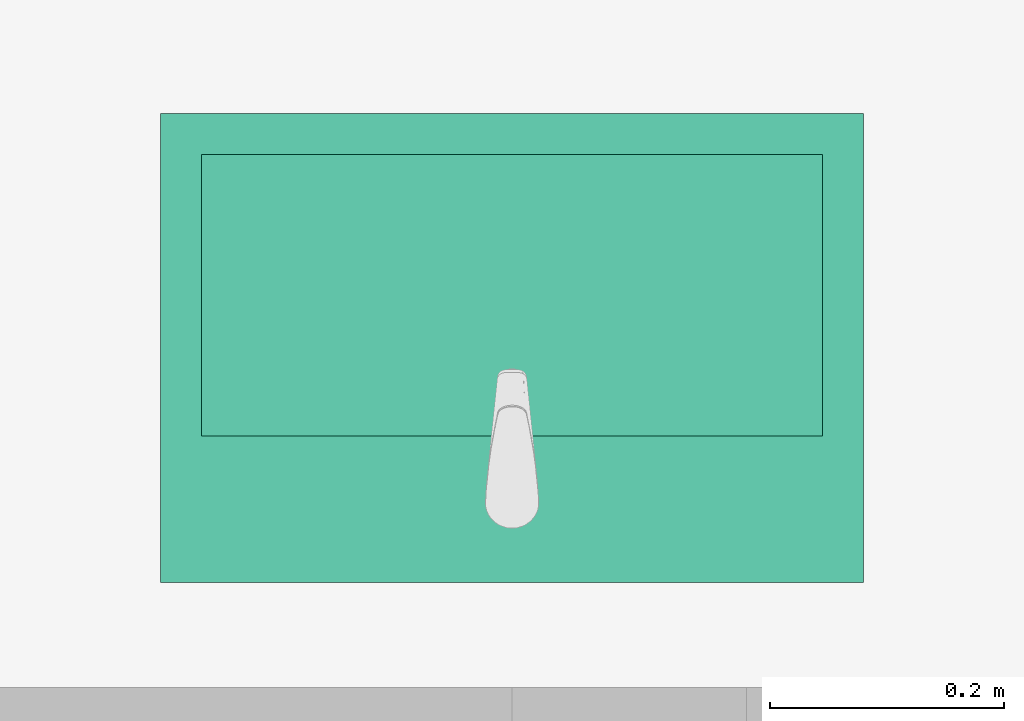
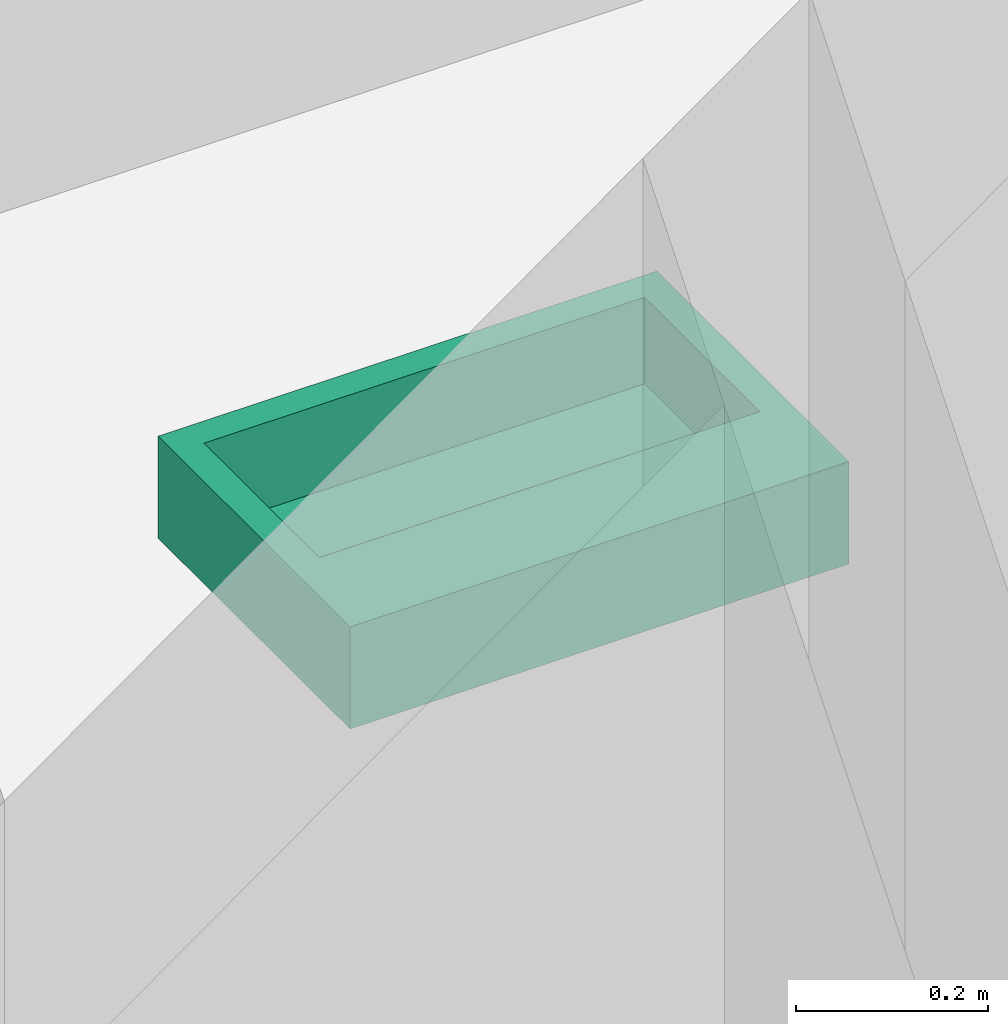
# One storey, part 17 of 42: 1 flow terminal.
"""IFC2X3 building model written with IfcOpenShell, lengths in millimetres."""

from ifc_helpers import new_model, entity, si_unit, converted_unit, direction, frame, origin, place, context, subcontext, project, spatial, faceted_brep, source, transform, mapped, material, type_object, type_shapes, element, save


model = new_model("IFC2X3")

# Units and contexts
model_context = context("Model", 3, precision=0.01, world=origin(), true_north=direction((6.123233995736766e-17, 1.0)))
plan_context = context("Plan", 3, precision=0.01, world=origin(), true_north=direction((6.123233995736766e-17, 1.0)))
body_context = subcontext(model_context, "Body", "Model", "MODEL_VIEW")
ifc_project = project(units=[si_unit("LENGTHUNIT", "METRE", prefix="MILLI"), converted_unit("PLANEANGLEUNIT", "DEGREE", entity("IfcPlaneAngleMeasure", 0.017453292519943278), si_unit("PLANEANGLEUNIT", "RADIAN"), dimensions=[0, 0, 0, 0, 0, 0, 0]), si_unit("AREAUNIT", "SQUARE_METRE")], contexts=[model_context, plan_context])

# Site, building, storey, space
site_placement = place(None, origin())
site = spatial("IfcSite", under=ifc_project, at=site_placement, Name="Default", CompositionType="ELEMENT")
building_placement = place(site_placement, origin())
building = spatial("IfcBuilding", under=site, at=building_placement, CompositionType="ELEMENT")
storey_placement = place(building_placement, frame((0.0, 0.0, 9465.000076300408)))
storey = spatial("IfcBuildingStorey", under=building, at=storey_placement, Name="4K", CompositionType="ELEMENT", Elevation=9465.000076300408)
space_placement = place(storey_placement, origin())
space = spatial("IfcSpace", under=storey, at=space_placement, Name="4-9.6", CompositionType="ELEMENT", InteriorOrExteriorSpace="INTERNAL")

# Flow terminal
ifc_material = material(Name="<Unnamed>")
distribution_element_type = type_object("IfcDistributionElementType", Name="HR_Plumbing-fixtures_Sink_Generic_Bathroom_v1:600 x 400 mm", material=ifc_material)
shared_shape = source(origin(), body_context, "Body", "Brep", [
    faceted_brep([(300.0, 0.0, 0.0), (-300.0, 0.0, 0.0), (-300.0, -400.0, 0.0), (300.0, -400.0, 0.0), (-265.0, -125.0, 0.0), (265.0, -125.0, 0.0), (265.0, -365.0, 0.0), (-265.0, -365.0, 0.0), (300.0, 0.0, -130.0), (300.0, -400.0, -130.0), (-300.0, -400.0, -130.0), (-300.0, 0.0, -130.0), (265.0, -125.0, -110.0), (-265.0, -125.0, -110.0), (-265.0, -365.0, -110.0), (265.0, -365.0, -110.0)], [[[0, 1, 2, 3], [4, 5, 6, 7]], [[8, 9, 10, 11]], [[1, 0, 8, 11]], [[2, 1, 11, 10]], [[3, 2, 10, 9]], [[0, 3, 9, 8]], [[12, 13, 14, 15]], [[13, 12, 5, 4]], [[14, 13, 4, 7]], [[15, 14, 7, 6]], [[12, 15, 6, 5]]]),
])
type_shapes(distribution_element_type, [shared_shape])
flow_terminal_placement = place(space_placement, frame((8280.0, 8730.0, 900.0), z_axis=(0.0, 0.0, 1.0), x_axis=(-1.0, 0.0, 0.0)))
element("IfcFlowTerminal", 1, at=flow_terminal_placement, inside=space, type_object=distribution_element_type, material=ifc_material, Name="HR_Plumbing-fixtures_Sink_Generic_Bathroom_v1:600 x 400 mm", ObjectType="HR_Plumbing-fixtures_Sink_Generic_Bathroom_v1:600 x 400 mm", context=body_context, shape_type="MappedRepresentation", body=[
    mapped(shared_shape, transform((0.0, 0.0, 0.0), scale=1.0)),
])

save(model, "model.ifc")
